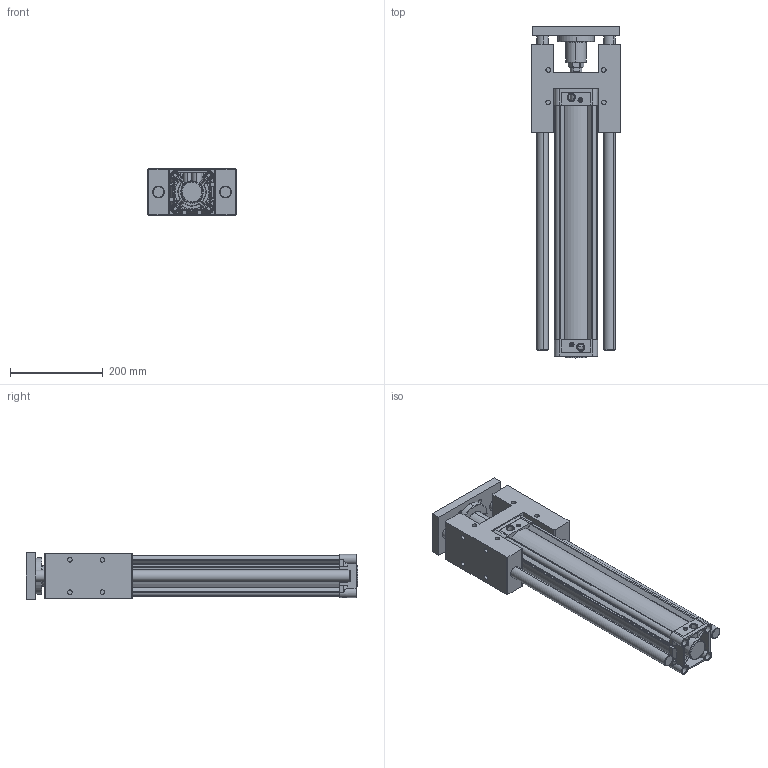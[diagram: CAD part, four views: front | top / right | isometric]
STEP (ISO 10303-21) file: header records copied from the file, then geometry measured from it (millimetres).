
FILE_DESCRIPTION (( 'STEP AP203' ), '1' );
FILE_NAME ('MDNC80X450H-YATAK.STEP', '2016-05-20T07:29:10', ( 'user' ), ( '' ), 'SwSTEP 2.0', 'SolidWorks 2013', '' );
FILE_SCHEMA (( 'CONFIG_CONTROL_DESIGN' ));
Length unit declared in the file: millimetre
Products named in the file (11): ORTA PÝSTON 80; 烰 KAPAK  80; Piston Mili 80x450; DNC-H-YATAK 80; SOMUN 80; DNC-H-YATAK M尳 80x450; MDNC80X450H-YATAK; DNC-H-YATAK TABLA 80; DNC-H-YATAK MÝL YATAÐI 80; ARKA KAPAK  80; KDNT 80X450 BORU
Assembly tree (11 placements, depth 2):
  MDNC80X450H-YATAK
    DNC-H-YATAK 80
    DNC-H-YATAK M尳 80x450  x2
    DNC-H-YATAK TABLA 80
    DNC-H-YATAK MÝL YATAÐI 80
    ARKA KAPAK  80
    KDNT 80X450 BORU
    ORTA PÝSTON 80
    烰 KAPAK  80
    Piston Mili 80x450
    SOMUN 80
Bounding box: 191 x 716.9 x 100.5 mm (x, y, z)
Volume: 4415660 mm3; surface area: 1019865.9 mm2
Topology: 11 solids, 11 shells, 1227 faces, 3195 edges, 2053 vertices
Faces by surface type: cylinder 538, plane 367, cone 218, bspline 92, torus 12
Entity records: 51116 total; most frequent: CARTESIAN_POINT 21753, ORIENTED_EDGE 6342, DIRECTION 5141, EDGE_CURVE 3171, VERTEX_POINT 2045, AXIS2_PLACEMENT_3D 1949, EDGE_LOOP 1388, VECTOR 1243
